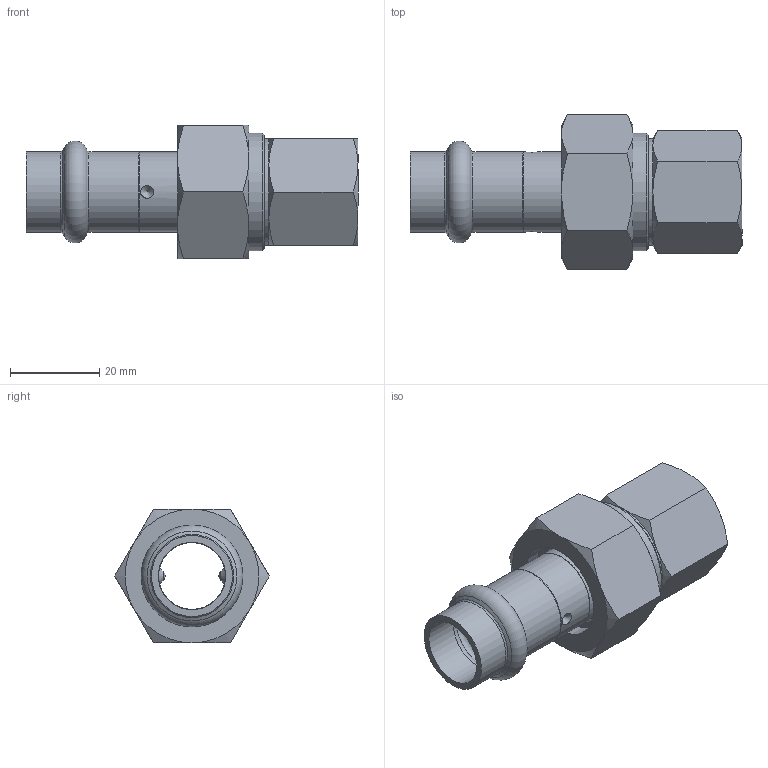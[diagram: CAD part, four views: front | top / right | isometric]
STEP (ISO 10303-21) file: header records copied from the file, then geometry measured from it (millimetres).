
FILE_DESCRIPTION((''),'2;1');
FILE_NAME('G:\Nirosan-Schmiedefeld\Technics\CAD\Bauteile VA\015\69330GMVA1512(4).stp','2011-09-20T14:14:19',('herberg'),(''),'Autodesk Inventor 2009','Autodesk Inventor 2009','');
FILE_SCHEMA(('AUTOMOTIVE_DESIGN { 1 0 10303 214 1 1 1 1 }'));
Length unit declared in the file: millimetre
Products named in the file (7): 69330GMVA1512(4); 69359m1534(3); HM_692431815(0); R1834(0); SM1834(2); FD_2417_EPDM(0); 69370G3412(0)
Assembly tree (6 placements, depth 3):
  69330GMVA1512(4)
    69359m1534(3)
      HM_692431815(0)
      R1834(0)
      SM1834(2)
      FD_2417_EPDM(0)
    69370G3412(0)
Bounding box: 74.5 x 34.64 x 30 mm (x, y, z)
Volume: 17223.4 mm3; surface area: 14544.4 mm2
Topology: 5 solids, 5 shells, 89 faces, 190 edges, 113 vertices
Faces by surface type: cone 37, plane 24, cylinder 13, bspline 11, sphere 2, torus 2
Full cylindrical faces by diameter (mm): 15 x2, 15.15 x2, 17 x1, 18 x2, 18.15 x2, 23 x1, 24 x2, 26.441 x1
Entity records: 2744 total; most frequent: CARTESIAN_POINT 985, DIRECTION 338, ORIENTED_EDGE 280, AXIS2_PLACEMENT_3D 163, EDGE_CURVE 140, EDGE_LOOP 140, VERTEX_POINT 102, FACE_OUTER_BOUND 89
